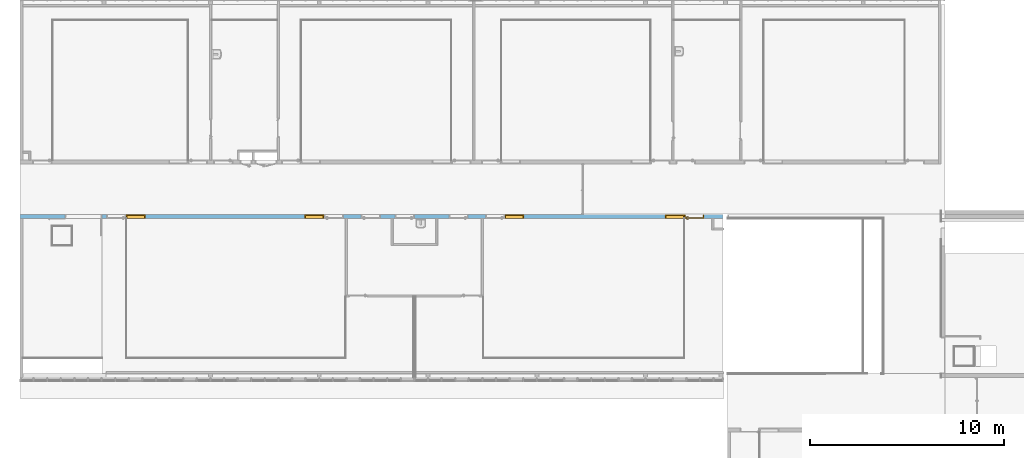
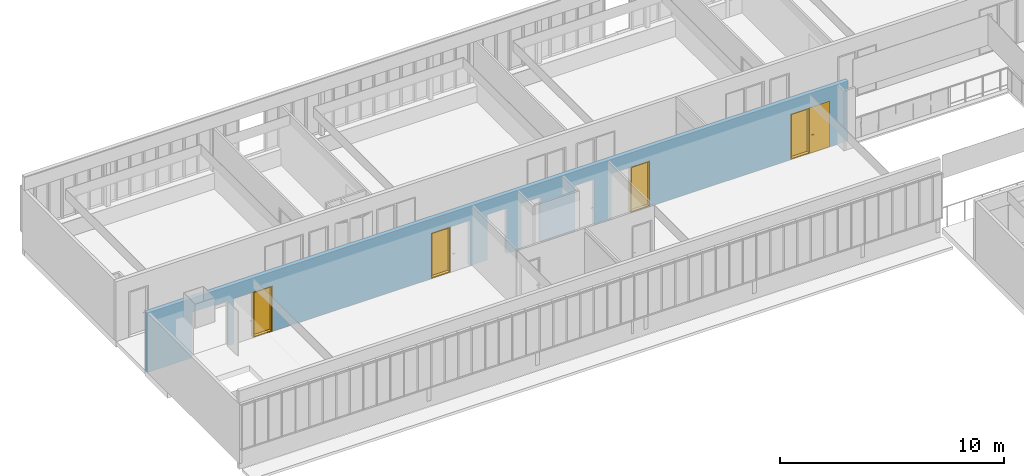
# One storey, part 35 of 87: 4 windows, 1 door, 12 openings, plus 1 element that does not belong to this part.
"""IFC2X3 building model written with IfcOpenShell, lengths in centimetres."""

from ifc_helpers import new_model, entity, si_unit, converted_unit, derived_unit, direction, frame, frame_2d, origin, place, context, subcontext, project, spatial, rectangle, extrude, faceted_brep, source, transform, mapped, material, material_list, layer, layer_set, layer_usage, type_object, type_shapes, element, fill, save


model = new_model("IFC2X3")

# Units and contexts
model_context = context("Model", 3, precision=0.001, world=origin(), true_north=direction((6.12303176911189e-17, 1.0)))
body_context = subcontext(model_context, "Body", "Model", "MODEL_VIEW")
ifc_project = project(units=[si_unit("LENGTHUNIT", "METRE", prefix="CENTI"), si_unit("AREAUNIT", "SQUARE_METRE"), si_unit("VOLUMEUNIT", "CUBIC_METRE"), converted_unit("PLANEANGLEUNIT", "DEGREE", entity("IfcRatioMeasure", 0.0174532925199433), si_unit("PLANEANGLEUNIT", "RADIAN"), dimensions=[0, 0, 0, 0, 0, 0, 0]), si_unit("MASSUNIT", "GRAM", prefix="KILO"), derived_unit("MASSDENSITYUNIT", [(si_unit("MASSUNIT", "GRAM", prefix="KILO"), 1), (si_unit("LENGTHUNIT", "METRE"), -3)]), si_unit("TIMEUNIT", "SECOND"), si_unit("FREQUENCYUNIT", "HERTZ"), si_unit("THERMODYNAMICTEMPERATUREUNIT", "DEGREE_CELSIUS"), derived_unit("THERMALTRANSMITTANCEUNIT", [(si_unit("MASSUNIT", "GRAM", prefix="KILO"), 1), (si_unit("THERMODYNAMICTEMPERATUREUNIT", "KELVIN"), -1), (si_unit("TIMEUNIT", "SECOND"), -3)]), derived_unit("VOLUMETRICFLOWRATEUNIT", [(si_unit("LENGTHUNIT", "METRE"), 3), (si_unit("TIMEUNIT", "SECOND"), -1)]), si_unit("ELECTRICCURRENTUNIT", "AMPERE"), si_unit("ELECTRICVOLTAGEUNIT", "VOLT"), si_unit("POWERUNIT", "WATT"), si_unit("FORCEUNIT", "NEWTON", prefix="KILO"), si_unit("ILLUMINANCEUNIT", "LUX"), si_unit("LUMINOUSFLUXUNIT", "LUMEN"), si_unit("LUMINOUSINTENSITYUNIT", "CANDELA"), derived_unit("USERDEFINED", [(si_unit("MASSUNIT", "GRAM", prefix="KILO"), -1), (si_unit("LENGTHUNIT", "METRE"), -2), (si_unit("TIMEUNIT", "SECOND"), 3), (si_unit("LUMINOUSFLUXUNIT", "LUMEN"), 1)]), derived_unit("LINEARVELOCITYUNIT", [(si_unit("LENGTHUNIT", "METRE"), 1), (si_unit("TIMEUNIT", "SECOND"), -1)]), si_unit("PRESSUREUNIT", "PASCAL"), derived_unit("USERDEFINED", [(si_unit("LENGTHUNIT", "METRE"), -2), (si_unit("MASSUNIT", "GRAM", prefix="KILO"), 1), (si_unit("TIMEUNIT", "SECOND"), -2)])], contexts=[model_context])

# Site, building, storey
site_placement = place(None, frame((-2781.94577612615, 7442.24238424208, 0.0)))
site = spatial("IfcSite", under=ifc_project, at=site_placement, Name="Default", CompositionType="ELEMENT")
building_placement = place(site_placement, origin())
building = spatial("IfcBuilding", under=site, at=building_placement, CompositionType="ELEMENT")
storey_placement = place(building_placement, frame((0.0, 0.0, 774.0)))
storey = spatial("IfcBuildingStorey", under=building, at=storey_placement, Name="TR - N02 - ARCH", CompositionType="ELEMENT", Elevation=774.0)

# Wall, openings, door, windows
ifc_material_1 = material(Name="01 - Maçonnerie")
ifc_layer = layer(ifc_material_1, 20.0)
ifc_layer_set = layer_set([ifc_layer], Name="Mur de base:04 - Structure - béton - 20cm")
ifc_layer_usage = layer_usage(ifc_layer_set, "AXIS2", "NEGATIVE", 10.0)
wall_type = type_object("IfcWallType", Name="Mur de base:04 - Structure - béton - 20cm", PredefinedType="STANDARD", material=ifc_layer_set)
wall_placement = place(storey_placement, frame((-4791.99987760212, -1100.0, 0.0), z_axis=(0.0, 0.0, 1.0), x_axis=(-1.0, 0.0, 0.0)))
wall = element("IfcWallStandardCase", 1, at=wall_placement, inside=storey, type_object=wall_type, material=ifc_layer_usage, Name="Mur de base:04 - Structure - béton - 20cm", ObjectType="Mur de base:04 - Structure - béton - 20cm", context=body_context, shape_type="SweptSolid", body=[
    extrude(rectangle(XDim=3617.50000006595, YDim=20.0000000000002, at=frame_2d((1808.75000003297, -3.99680288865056e-14), x_axis=(-1.0, 0.0))), origin(), (0.0, 0.0, 1.0), 326.0),
])
opening_1_placement = place(wall_placement, frame((3071.50016406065, -10.0, 0.0)))
element("IfcOpeningElement", 2, at=opening_1_placement, cuts=wall, Name="Int. Simple:PV (0.93m x 2.50m):1", ObjectType="Opening", context=body_context, shape_type="SweptSolid", body=[
    extrude(rectangle(XDim=248.500000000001, YDim=99.9999999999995, at=frame_2d((124.250000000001, 49.9999999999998), x_axis=(1.0, 0.0))), frame((0.0, 0.0, 0.0), z_axis=(0.0, 1.0, 0.0), x_axis=(0.0, 0.0, 1.0)), (0.0, 0.0, 1.0), 20.0),
])
opening_2_placement = place(wall_placement, frame((1952.5, -10.0, 0.0)))
element("IfcOpeningElement", 3, at=opening_2_placement, cuts=wall, Name="Int. Simple:PV (0.93m x 2.50m):1", ObjectType="Opening", context=body_context, shape_type="SweptSolid", body=[
    extrude(rectangle(XDim=248.500000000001, YDim=99.9999999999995, at=frame_2d((124.250000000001, 50.0), x_axis=(1.0, 0.0))), frame((0.0, 0.0, 0.0), z_axis=(0.0, 1.0, 0.0), x_axis=(0.0, 0.0, 1.0)), (0.0, 0.0, 1.0), 20.0),
])
opening_3_placement = place(wall_placement, frame((1762.50000000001, -10.0, 0.0)))
element("IfcOpeningElement", 4, at=opening_3_placement, cuts=wall, Name="Int. Simple:PP simple (0.93m x 2.50m):1", ObjectType="Opening", context=body_context, shape_type="SweptSolid", body=[
    extrude(rectangle(XDim=248.500000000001, YDim=99.9999999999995, at=frame_2d((124.250000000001, 50.0), x_axis=(1.0, 0.0))), frame((0.0, 0.0, 0.0), z_axis=(0.0, 1.0, 0.0), x_axis=(0.0, 0.0, 1.0)), (0.0, 0.0, 1.0), 20.0),
])
opening_4_placement = place(wall_placement, frame((1310.5, -10.0, 0.0)))
element("IfcOpeningElement", 5, at=opening_4_placement, cuts=wall, Name="Int. Simple:PP simple (0.93m x 2.50m):1", ObjectType="Opening", context=body_context, shape_type="SweptSolid", body=[
    extrude(rectangle(XDim=248.500000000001, YDim=99.9999999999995, at=frame_2d((124.250000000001, 49.9999999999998), x_axis=(1.0, 0.0))), frame((0.0, 0.0, 0.0), z_axis=(0.0, 1.0, 0.0), x_axis=(0.0, 0.0, 1.0)), (0.0, 0.0, 1.0), 20.0),
])
opening_5_placement = place(wall_placement, frame((1587.5, -10.0, 0.0)))
element("IfcOpeningElement", 6, at=opening_5_placement, cuts=wall, Name="Int. Simple:PP simple (0.93m x 2.50m):1", ObjectType="Opening", context=body_context, shape_type="SweptSolid", body=[
    extrude(rectangle(XDim=248.500000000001, YDim=99.9999999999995, at=frame_2d((124.250000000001, 49.9999999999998), x_axis=(1.0, 0.0))), frame((0.0, 0.0, 0.0), z_axis=(0.0, 1.0, 0.0), x_axis=(0.0, 0.0, 1.0)), (0.0, 0.0, 1.0), 20.0),
])
opening_6_placement = place(wall_placement, frame((1122.5, -10.0, 0.0)))
element("IfcOpeningElement", 7, at=opening_6_placement, cuts=wall, Name="Int. Simple:PV (0.93m x 2.50m):1", ObjectType="Opening", context=body_context, shape_type="SweptSolid", body=[
    extrude(rectangle(XDim=248.500000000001, YDim=99.9999999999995, at=frame_2d((124.250000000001, 49.9999999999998), x_axis=(1.0, 0.0))), frame((0.0, 0.0, 0.0), z_axis=(0.0, 1.0, 0.0), x_axis=(0.0, 0.0, 1.0)), (0.0, 0.0, 1.0), 20.0),
])
opening_7_placement = place(wall_placement, frame((97.5000000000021, -10.0, 0.0)))
opening_7 = element("IfcOpeningElement", 8, at=opening_7_placement, cuts=wall, Name="Int. Simple:PV (0.93m x 2.50m):1", ObjectType="Opening", context=body_context, shape_type="SweptSolid", body=[
    extrude(rectangle(XDim=248.500000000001, YDim=99.9999999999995, at=frame_2d((124.250000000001, 50.0), x_axis=(1.0, 0.0))), frame((0.0, 0.0, 0.0), z_axis=(0.0, 1.0, 0.0), x_axis=(0.0, 0.0, 1.0)), (0.0, 0.0, 1.0), 20.0),
])
opening_8_placement = place(wall_placement, frame((1022.5, -10.0, 0.0)))
opening_8 = element("IfcOpeningElement", 9, at=opening_8_placement, cuts=wall, Name="châssis intérieur vitré:châssis intérieur vitré (h=270) R+1:1", ObjectType="Opening", context=body_context, shape_type="SweptSolid", body=[
    extrude(rectangle(XDim=250.0, YDim=99.9999999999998, at=frame_2d((125.0, 49.9999999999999), x_axis=(1.0, 0.0))), frame((0.0, 0.0, 0.0), z_axis=(0.0, 1.0, 0.0), x_axis=(0.0, 0.0, 1.0)), (0.0, 0.0, 1.0), 20.0),
])
opening_9_placement = place(wall_placement, frame((197.500000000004, -10.0, 0.0)))
opening_9 = element("IfcOpeningElement", 10, at=opening_9_placement, cuts=wall, Name="châssis intérieur vitré:châssis intérieur vitré (h=270) R+1:1", ObjectType="Opening", context=body_context, shape_type="SweptSolid", body=[
    extrude(rectangle(XDim=250.0, YDim=99.9999999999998, at=frame_2d((125.0, 49.9999999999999), x_axis=(1.0, 0.0))), frame((0.0, 0.0, 0.0), z_axis=(0.0, 1.0, 0.0), x_axis=(0.0, 0.0, 1.0)), (0.0, 0.0, 1.0), 20.0),
])
opening_10_placement = place(wall_placement, frame((2052.5, -10.0, 0.0)))
opening_10 = element("IfcOpeningElement", 11, at=opening_10_placement, cuts=wall, Name="châssis intérieur vitré:châssis intérieur vitré (h=270) R+1:1", ObjectType="Opening", context=body_context, shape_type="SweptSolid", body=[
    extrude(rectangle(XDim=250.0, YDim=99.9999999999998, at=frame_2d((125.0, 49.9999999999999), x_axis=(1.0, 0.0))), frame((0.0, 0.0, 0.0), z_axis=(0.0, 1.0, 0.0), x_axis=(0.0, 0.0, 1.0)), (0.0, 0.0, 1.0), 20.0),
])
opening_11_placement = place(wall_placement, frame((2971.50016406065, -10.0, 0.0)))
opening_11 = element("IfcOpeningElement", 12, at=opening_11_placement, cuts=wall, Name="châssis intérieur vitré:châssis intérieur vitré (h=270) R+1:1", ObjectType="Opening", context=body_context, shape_type="SweptSolid", body=[
    extrude(rectangle(XDim=250.0, YDim=99.9999999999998, at=frame_2d((125.0, 49.9999999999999), x_axis=(1.0, 0.0))), frame((0.0, 0.0, 0.0), z_axis=(0.0, 1.0, 0.0), x_axis=(0.0, 0.0, 1.0)), (0.0, 0.0, 1.0), 20.0),
])
opening_12_placement = place(wall_placement, frame((3196.0, -10.0, 0.0)))
element("IfcOpeningElement", 13, at=opening_12_placement, cuts=wall, Name="Int. Double:PP (1.83m x 2.04m):1", ObjectType="Opening", context=body_context, shape_type="SweptSolid", body=[
    extrude(rectangle(XDim=248.500000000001, YDim=190.0, at=frame_2d((124.250000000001, 95.0000000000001), x_axis=(1.0, 0.0))), frame((0.0, 0.0, 0.0), z_axis=(0.0, 1.0, 0.0), x_axis=(0.0, 0.0, 1.0)), (0.0, 0.0, 1.0), 20.0),
])
ifc_material_2 = material(Name="Finition Peinture - Blanc satiné")
ifc_material_3 = material(Name="Bois - Panneau de porte")
ifc_material_4 = material(Name="Bois - Cadre de porte")
ifc_material_list_1 = material_list([ifc_material_2, ifc_material_3, ifc_material_4])
ifc_material_list_2 = material_list([ifc_material_2, ifc_material_3, ifc_material_4])
door_style = type_object("IfcDoorStyle", Name="PV (0.93m x 2.50m)", ConstructionType="NOTDEFINED", OperationType="SINGLE_SWING_LEFT", ParameterTakesPrecedence=False, Sizeable=False, material=ifc_material_list_2)
shared_shape_1 = source(origin(), body_context, "Body", "Brep", [
    faceted_brep([(10.5352761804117, -0.500000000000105, 86.6003983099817), (11.5000000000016, -0.500000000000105, 87.0), (11.5000000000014, -0.500000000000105, 108.0), (10.5352761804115, -0.500000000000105, 108.399601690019), (9.50000000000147, -0.500000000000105, 108.535898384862), (8.46472381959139, -0.500000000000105, 108.399601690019), (7.50000000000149, -0.500000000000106, 108.0), (7.50000000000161, -0.500000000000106, 87.0), (8.46472381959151, -0.500000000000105, 86.6003983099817), (9.50000000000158, -0.500000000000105, 86.464101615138), (10.5352761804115, 0.0, 108.399601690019), (11.5000000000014, 0.0, 108.0), (11.5000000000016, 0.0, 87.0), (10.5352761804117, 0.0, 86.6003983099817), (9.50000000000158, 0.0, 86.464101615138), (8.46472381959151, 0.0, 86.6003983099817), (7.50000000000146, 0.0, 87.0), (7.50000000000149, 0.0, 108.0), (8.46472381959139, 0.0, 108.399601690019), (9.50000000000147, 0.0, 108.535898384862)], [[[0, 1, 2, 3, 4, 5, 6, 7, 8, 9]], [[10, 11, 12, 13, 14, 15, 16, 17, 18, 19]], [[16, 15, 8, 7]], [[8, 15, 14, 9]], [[14, 13, 0, 9]], [[13, 12, 1, 0]], [[2, 1, 12, 11]], [[11, 10, 3, 2]], [[3, 10, 19, 4]], [[19, 18, 5, 4]], [[18, 17, 6, 5]], [[7, 6, 17, 16]]]),
    faceted_brep([(10.5352761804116, 4.0, 86.6003983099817), (11.5000000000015, 4.0, 87.0), (11.5000000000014, 4.0, 108.0), (10.5352761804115, 4.0, 108.399601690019), (9.50000000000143, 4.0, 108.535898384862), (8.46472381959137, 4.0, 108.399601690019), (7.50000000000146, 4.0, 108.0), (7.50000000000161, 4.0, 87.0), (8.46472381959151, 4.0, 86.6003983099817), (9.50000000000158, 4.0, 86.464101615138), (10.5352761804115, 4.49999999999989, 108.399601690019), (11.5000000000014, 4.49999999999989, 108.0), (11.5000000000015, 4.49999999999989, 87.0), (10.5352761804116, 4.49999999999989, 86.6003983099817), (9.50000000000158, 4.49999999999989, 86.464101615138), (8.46472381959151, 4.49999999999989, 86.6003983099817), (7.50000000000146, 4.49999999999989, 87.0), (7.50000000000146, 4.49999999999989, 108.0), (8.46472381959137, 4.49999999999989, 108.399601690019), (9.50000000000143, 4.49999999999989, 108.535898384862)], [[[0, 1, 2, 3, 4, 5, 6, 7, 8, 9]], [[10, 11, 12, 13, 14, 15, 16, 17, 18, 19]], [[11, 10, 3, 2]], [[3, 10, 19, 4]], [[19, 18, 5, 4]], [[18, 17, 6, 5]], [[7, 6, 17, 16]], [[16, 15, 8, 7]], [[8, 15, 14, 9]], [[14, 13, 0, 9]], [[13, 12, 1, 0]], [[2, 1, 12, 11]]]),
    faceted_brep([(9.29747013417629, -0.500000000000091, 100.778044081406), (9.70252986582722, -0.500000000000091, 100.778044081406), (10.1000000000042, -0.500000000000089, 100.699999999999), (10.1000000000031, -0.500000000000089, 99.3000000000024), (9.7025298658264, -0.500000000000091, 99.2219559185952), (9.29747013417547, -0.500000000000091, 99.221955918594), (8.8999999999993, -0.500000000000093, 99.2999999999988), (8.89999999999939, -0.500000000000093, 100.7), (8.89999999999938, -3.26509507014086, 100.7), (9.29747013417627, -3.10045754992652, 100.778044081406), (10.9023585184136, -4.70534593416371, 100.778044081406), (11.0701397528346, -4.30028620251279, 100.778044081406), (9.7025298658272, -2.93267631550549, 100.778044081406), (10.1000000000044, -2.76803879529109, 100.7), (10.1000000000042, -2.76803879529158, 99.3000000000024), (9.7025298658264, -2.93267631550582, 99.2219559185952), (11.0701397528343, -4.30028620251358, 99.2219559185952), (10.9023585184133, -4.70534593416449, 99.221955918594), (9.29747013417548, -3.10045754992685, 99.221955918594), (8.89999999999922, -3.26509507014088, 99.2999999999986), (10.7377209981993, -5.10281606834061, 100.7), (11.2347772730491, -3.90281606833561, 100.7), (11.2347772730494, -3.90281606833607, 99.3000000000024), (10.7377209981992, -5.10281606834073, 99.2999999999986), (19.5018640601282, -5.1028160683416, 99.2999999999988), (19.5018640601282, -4.70534593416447, 99.221955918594), (19.5018640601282, -4.30028620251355, 99.2219559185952), (19.5018640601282, -3.90281606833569, 99.3000000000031), (19.5018640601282, -3.90281606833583, 100.7), (19.5018640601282, -4.30028620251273, 100.778044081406), (19.5018640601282, -4.70534593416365, 100.778044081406), (19.5018640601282, -5.10281606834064, 100.699999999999), (14.7307697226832, -5.10281606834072, 100.7), (15.2860019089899, -4.5028160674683, 100.78786867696), (15.3683206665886, -3.9028160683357, 100.7), (15.3683206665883, -3.90281606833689, 99.3000000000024), (15.2860018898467, -4.50281607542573, 99.2121313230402), (14.7307700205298, -5.10281606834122, 99.2999999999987)], [[[0, 1, 2, 3, 4, 5, 6, 7]], [[8, 9, 0, 7]], [[9, 10, 11, 12, 1, 0]], [[12, 13, 2, 1]], [[3, 2, 13, 14]], [[14, 15, 4, 3]], [[15, 16, 17, 18, 5, 4]], [[18, 19, 6, 5]], [[7, 6, 19, 8]], [[20, 10, 9, 8]], [[11, 21, 13, 12]], [[14, 13, 21, 22]], [[22, 16, 15, 14]], [[17, 23, 19, 18]], [[8, 19, 23, 20]], [[24, 25, 26, 27, 28, 29, 30, 31]], [[32, 30, 33]], [[31, 30, 32]], [[10, 20, 32]], [[33, 34, 11]], [[21, 11, 34]], [[34, 29, 28]], [[30, 29, 33]], [[29, 34, 33]], [[10, 32, 33]], [[10, 33, 11]], [[22, 21, 34, 28, 27, 35]], [[35, 26, 36]], [[37, 36, 25]], [[22, 35, 16]], [[35, 27, 26]], [[24, 37, 25]], [[23, 17, 37]], [[37, 17, 36]], [[17, 16, 36]], [[16, 35, 36]], [[25, 36, 26]], [[20, 23, 37, 24, 31, 32]]]),
    faceted_brep([(9.29747013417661, 4.49999999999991, 100.778044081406), (8.89999999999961, 4.4999999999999, 100.7), (8.89999999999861, 4.4999999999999, 99.2999999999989), (9.29747013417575, 4.49999999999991, 99.221955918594), (9.70252986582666, 4.49999999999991, 99.2219559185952), (10.1000000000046, 4.49999999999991, 99.3000000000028), (10.1000000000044, 4.49999999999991, 100.7), (9.70252986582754, 4.49999999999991, 100.778044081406), (10.1000000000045, 6.7485204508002, 99.3000000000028), (10.1000000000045, 6.74852045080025, 100.7), (9.70252986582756, 6.91315797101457, 100.778044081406), (11.083890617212, 8.29451872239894, 100.778044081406), (10.916109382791, 8.69957845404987, 100.778044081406), (9.29747013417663, 7.0809392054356, 100.778044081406), (8.89999999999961, 7.24557672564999, 100.7), (8.89999999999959, 7.2455767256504, 99.2999999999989), (9.29747013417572, 7.08093920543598, 99.221955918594), (10.9161093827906, 8.69957845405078, 99.221955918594), (11.0838906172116, 8.29451872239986, 99.2219559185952), (9.70252986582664, 6.91315797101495, 99.2219559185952), (11.2485281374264, 7.89704858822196, 99.3000000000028), (11.2485281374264, 7.89704858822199, 100.7), (10.7514718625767, 9.09704858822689, 100.7), (10.7514718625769, 9.0970485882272, 99.2999999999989), (19.5045783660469, 7.89704858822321, 99.3000000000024), (19.5045783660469, 8.29451872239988, 99.2219559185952), (19.5045783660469, 8.6995784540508, 99.221955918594), (19.5045783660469, 9.09704858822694, 99.2999999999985), (19.5045783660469, 9.09704858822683, 100.7), (19.5045783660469, 8.69957845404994, 100.778044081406), (19.5045783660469, 8.29451872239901, 100.778044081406), (19.5045783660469, 7.89704858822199, 100.7), (15.3765520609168, 7.89704858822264, 99.3000000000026), (15.3765532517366, 7.89704858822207, 100.7), (15.294234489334, 8.49704858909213, 100.78786867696), (14.7445205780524, 9.09704858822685, 100.7), (14.7445204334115, 9.09704858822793, 99.2999999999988), (15.2942345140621, 8.49704858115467, 99.2121313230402)], [[[0, 1, 2, 3, 4, 5, 6, 7]], [[6, 5, 8, 9]], [[9, 10, 7, 6]], [[10, 11, 12, 13, 0, 7]], [[13, 14, 1, 0]], [[2, 1, 14, 15]], [[15, 16, 3, 2]], [[16, 17, 18, 19, 4, 3]], [[19, 8, 5, 4]], [[9, 8, 20, 21]], [[21, 11, 10, 9]], [[12, 22, 14, 13]], [[15, 14, 22, 23]], [[23, 17, 16, 15]], [[18, 20, 8, 19]], [[24, 25, 26, 27, 28, 29, 30, 31]], [[21, 20, 32, 24, 31, 33]], [[33, 30, 34]], [[35, 34, 29]], [[21, 33, 11]], [[33, 31, 30]], [[28, 35, 29]], [[22, 12, 35]], [[35, 12, 34]], [[12, 11, 34]], [[11, 33, 34]], [[29, 34, 30]], [[22, 35, 28, 27, 36, 23]], [[36, 26, 37]], [[27, 26, 36]], [[17, 23, 36]], [[37, 32, 18]], [[20, 18, 32]], [[32, 25, 24]], [[26, 25, 37]], [[25, 32, 37]], [[17, 36, 37]], [[17, 37, 18]]]),
    faceted_brep([(3.50000000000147, 4.0, 245.0), (96.5000000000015, 4.0, 245.0), (96.5000000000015, 4.0, 0.0), (3.50000000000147, 4.0, 0.0), (3.50000000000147, 0.0, 245.0), (3.50000000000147, 0.0, 0.0), (96.5000000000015, 0.0, 0.0), (96.5000000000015, 0.0, 245.0)], [[[0, 1, 2, 3]], [[4, 5, 6, 7]], [[1, 0, 4, 7]], [[2, 1, 7, 6]], [[3, 2, 6, 5]], [[0, 3, 5, 4]]]),
    faceted_brep([(0.0, 20.0, 0.0), (-1.50000000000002, 20.0, 0.0), (-1.50000000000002, 20.5000000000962, 0.0), (5.0, 20.5000000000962, 0.0), (5.0, 4.0, 0.0), (3.50000000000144, 4.0, 0.0), (3.50000000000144, -0.500000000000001, 0.0), (-1.50000000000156, -0.500000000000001, 0.0), (-1.50000000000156, 0.0, 0.0), (0.0, 0.0, 0.0), (0.0, 20.0, 248.500000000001), (100.0, 20.0, 248.500000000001), (100.0, 20.0, 0.0), (101.5, 20.0, 0.0), (101.5, 20.0, 250.0), (-1.50000000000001, 20.0, 250.0), (-1.50000000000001, 20.5000000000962, 250.0), (101.5, 20.5000000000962, 250.0), (101.5, 20.5000000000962, 0.0), (95.0, 20.5000000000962, 0.0), (95.0, 20.5000000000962, 243.5), (5.0, 20.5000000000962, 243.5), (5.0, 4.0, 243.5), (95.0, 4.0, 243.5), (95.0, 4.0, 0.0), (96.499999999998, 4.0, 0.0), (96.499999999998, 4.0, 245.0), (3.50000000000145, 4.0, 245.0), (3.50000000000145, -0.500000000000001, 245.0), (96.499999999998, -0.500000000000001, 245.0), (96.499999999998, -0.500000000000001, 0.0), (101.500000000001, -0.500000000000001, 0.0), (101.500000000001, -0.500000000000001, 250.0), (-1.50000000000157, -0.500000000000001, 250.0), (-1.50000000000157, 0.0, 250.0), (101.500000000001, 0.0, 250.0), (101.500000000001, 0.0, 0.0), (100.0, 0.0, 0.0), (100.0, 0.0, 248.500000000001), (0.0, 0.0, 248.500000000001)], [[[0, 1, 2, 3, 4, 5, 6, 7, 8, 9]], [[1, 0, 10, 11, 12, 13, 14, 15]], [[2, 1, 15, 16]], [[3, 2, 16, 17, 18, 19, 20, 21]], [[3, 21, 22, 4]], [[5, 4, 22, 23, 24, 25, 26, 27]], [[5, 27, 28, 6]], [[7, 6, 28, 29, 30, 31, 32, 33]], [[8, 7, 33, 34]], [[9, 8, 34, 35, 36, 37, 38, 39]], [[0, 9, 39, 10]], [[11, 38, 37, 12]], [[12, 37, 36, 31, 30, 25, 24, 19, 18, 13]], [[17, 14, 13, 18]], [[23, 20, 19, 24]], [[29, 26, 25, 30]], [[35, 32, 31, 36]], [[16, 15, 14, 17]], [[22, 21, 20, 23]], [[28, 27, 26, 29]], [[34, 33, 32, 35]], [[10, 39, 38, 11]]]),
])
type_shapes(door_style, [shared_shape_1])
door_placement = place(opening_7_placement, frame((100.0, 20.0, 0.0), z_axis=(0.0, 0.0, 1.0), x_axis=(-1.0, 0.0, 0.0)))
door = element("IfcDoor", 14, at=door_placement, inside=storey, type_object=door_style, material=ifc_material_list_1, Name="Int. Simple:PV (0.93m x 2.50m)", ObjectType="Int. Simple:PV (0.93m x 2.50m)", OverallHeight=248.500000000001, OverallWidth=99.9999999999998, context=body_context, shape_type="MappedRepresentation", body=[
    mapped(shared_shape_1, transform((0.0, 0.0, 0.0), scale=1.0)),
])
fill(opening_7, door)
ifc_material_5 = material(Name="Verre")
ifc_material_6 = material(Name="huisserie bois")
ifc_material_list_3 = material_list([ifc_material_5, ifc_material_6])
ifc_material_list_4 = material_list([ifc_material_5, ifc_material_6])
window_style_1 = type_object("IfcWindowStyle", Name="châssis intérieur vitré (h=270) R+1", ConstructionType="NOTDEFINED", OperationType="NOTDEFINED", ParameterTakesPrecedence=False, Sizeable=False, material=ifc_material_list_4)
shared_shape_2 = source(origin(), body_context, "Body", "Brep", [
    faceted_brep([(97.0, 5.0, 247.0), (97.0, 5.0, 3.0), (3.0, 5.0, 3.0), (3.0, 5.0, 247.0), (97.0, 2.0, 247.0), (97.0, 2.0, 3.0), (3.0, 2.0, 3.0), (3.0, 2.0, 247.0)], [[[0, 1, 2, 3]], [[1, 0, 4, 5]], [[2, 1, 5, 6]], [[3, 2, 6, 7]], [[4, 7, 6, 5]], [[0, 3, 7, 4]]]),
    faceted_brep([(97.0, 2.0, 247.0), (97.0, 0.0, 247.0), (97.0, 0.0, 3.0), (97.0, 2.0, 3.0), (95.0, 0.0, 5.0), (5.0, 0.0, 5.0), (5.0, 0.0, 245.0), (95.0, 0.0, 245.0), (3.0, 0.0, 247.0), (3.0, 0.0, 3.0), (3.0, 2.0, 3.0), (3.0, 2.0, 247.0), (95.0, 2.0, 245.0), (5.0, 2.0, 245.0), (5.0, 2.0, 5.0), (95.0, 2.0, 5.0)], [[[0, 1, 2, 3]], [[4, 5, 6, 7], [1, 8, 9, 2]], [[3, 2, 9, 10]], [[3, 10, 11, 0], [12, 13, 14, 15]], [[7, 12, 15, 4]], [[4, 15, 14, 5]], [[10, 9, 8, 11]], [[5, 14, 13, 6]], [[11, 8, 1, 0]], [[6, 13, 12, 7]]], outer=[[True], [False, True], [True], [True, False], [True], [True], [True], [True], [True], [True]]),
    faceted_brep([(95.0, 5.0, 245.0), (95.0, 20.0, 245.0), (95.0, 20.0, 5.0), (95.0, 5.0, 5.0), (100.0, 20.0, 0.0), (0.0, 20.0, 0.0), (0.0, 20.0, 250.0), (100.0, 20.0, 250.0), (5.0, 20.0, 245.0), (5.0, 20.0, 5.0), (5.0, 5.0, 5.0), (5.0, 5.0, 245.0), (97.0, 5.0, 247.0), (3.0, 5.0, 247.0), (3.0, 5.0, 3.0), (97.0, 5.0, 3.0), (97.0, 0.0, 247.0), (97.0, 0.0, 3.0), (3.0, 0.0, 3.0), (3.0, 0.0, 247.0), (100.0, 0.0, 250.0), (0.0, 0.0, 250.0), (0.0, 0.0, 0.0), (100.0, 0.0, 0.0)], [[[0, 1, 2, 3]], [[4, 5, 6, 7], [1, 8, 9, 2]], [[3, 2, 9, 10]], [[3, 10, 11, 0], [12, 13, 14, 15]], [[16, 12, 15, 17]], [[17, 15, 14, 18]], [[17, 18, 19, 16], [20, 21, 22, 23]], [[7, 20, 23, 4]], [[4, 23, 22, 5]], [[10, 9, 8, 11]], [[18, 14, 13, 19]], [[5, 22, 21, 6]], [[11, 8, 1, 0]], [[19, 13, 12, 16]], [[6, 21, 20, 7]]], outer=[[True], [True, False], [True], [False, True], [True], [True], [False, True], [True], [True], [True], [True], [True], [True], [True], [True]]),
])
type_shapes(window_style_1, [shared_shape_2])
window_1_placement = place(opening_8_placement, origin())
window_1 = element("IfcWindow", 15, at=window_1_placement, inside=storey, type_object=window_style_1, material=ifc_material_list_3, Name="châssis intérieur vitré:châssis intérieur vitré (h=270) R+1", ObjectType="châssis intérieur vitré:châssis intérieur vitré (h=270) R+1", OverallHeight=250.0, OverallWidth=99.9999999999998, context=body_context, shape_type="MappedRepresentation", body=[
    mapped(shared_shape_2, transform((0.0, 0.0, 0.0), scale=1.0)),
])
fill(opening_8, window_1)
ifc_material_list_5 = material_list([ifc_material_5, ifc_material_6])
window_2_placement = place(opening_9_placement, origin())
window_2 = element("IfcWindow", 16, at=window_2_placement, inside=storey, type_object=window_style_1, material=ifc_material_list_5, Name="châssis intérieur vitré:châssis intérieur vitré (h=270) R+1", ObjectType="châssis intérieur vitré:châssis intérieur vitré (h=270) R+1", OverallHeight=250.0, OverallWidth=99.9999999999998, context=body_context, shape_type="MappedRepresentation", body=[
    mapped(shared_shape_2, transform((0.0, 0.0, 0.0), scale=1.0)),
])
fill(opening_9, window_2)
ifc_material_list_6 = material_list([ifc_material_5, ifc_material_6])
window_3_placement = place(opening_10_placement, origin())
window_3 = element("IfcWindow", 17, at=window_3_placement, inside=storey, type_object=window_style_1, material=ifc_material_list_6, Name="châssis intérieur vitré:châssis intérieur vitré (h=270) R+1", ObjectType="châssis intérieur vitré:châssis intérieur vitré (h=270) R+1", OverallHeight=250.0, OverallWidth=99.9999999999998, context=body_context, shape_type="MappedRepresentation", body=[
    mapped(shared_shape_2, transform((0.0, 0.0, 0.0), scale=1.0)),
])
fill(opening_10, window_3)
ifc_material_list_7 = material_list([ifc_material_5, ifc_material_6])
ifc_material_list_8 = material_list([ifc_material_5, ifc_material_6])
window_style_2 = type_object("IfcWindowStyle", Name="châssis intérieur vitré (h=270) R+1", ConstructionType="NOTDEFINED", OperationType="NOTDEFINED", ParameterTakesPrecedence=False, Sizeable=False, material=ifc_material_list_8)
shared_shape_3 = source(origin(), body_context, "Body", "Brep", [
    faceted_brep([(3.0, 5.0, 247.0), (97.0, 5.0, 247.0), (97.0, 5.0, 3.0), (3.0, 5.0, 3.0), (3.0, 2.0, 3.0), (3.0, 2.0, 247.0), (97.0, 2.0, 3.0), (97.0, 2.0, 247.0)], [[[0, 1, 2, 3]], [[3, 4, 5, 0]], [[2, 6, 4, 3]], [[1, 7, 6, 2]], [[5, 4, 6, 7]], [[0, 5, 7, 1]]]),
    faceted_brep([(3.0, 2.0, 247.0), (3.0, 2.0, 3.0), (3.0, 0.0, 3.0), (3.0, 0.0, 247.0), (97.0, 0.0, 3.0), (97.0, 0.0, 247.0), (5.0, 0.0, 5.0), (5.0, 0.0, 245.0), (95.0, 0.0, 245.0), (95.0, 0.0, 5.0), (97.0, 2.0, 3.0), (97.0, 2.0, 247.0), (5.0, 2.0, 245.0), (5.0, 2.0, 5.0), (95.0, 2.0, 5.0), (95.0, 2.0, 245.0)], [[[0, 1, 2, 3]], [[3, 2, 4, 5], [6, 7, 8, 9]], [[1, 10, 4, 2]], [[1, 0, 11, 10], [12, 13, 14, 15]], [[7, 6, 13, 12]], [[6, 9, 14, 13]], [[10, 11, 5, 4]], [[9, 8, 15, 14]], [[11, 0, 3, 5]], [[8, 7, 12, 15]]]),
    faceted_brep([(5.0, 5.0, 245.0), (5.0, 5.0, 5.0), (5.0, 20.0, 5.0), (5.0, 20.0, 245.0), (95.0, 20.0, 5.0), (95.0, 20.0, 245.0), (0.0, 20.0, 0.0), (0.0, 20.0, 250.0), (100.0, 20.0, 250.0), (100.0, 20.0, 0.0), (95.0, 5.0, 5.0), (95.0, 5.0, 245.0), (3.0, 5.0, 247.0), (3.0, 5.0, 3.0), (97.0, 5.0, 3.0), (97.0, 5.0, 247.0), (3.0, 0.0, 247.0), (3.0, 0.0, 3.0), (97.0, 0.0, 3.0), (97.0, 0.0, 247.0), (0.0, 0.0, 250.0), (0.0, 0.0, 0.0), (100.0, 0.0, 0.0), (100.0, 0.0, 250.0)], [[[0, 1, 2, 3]], [[3, 2, 4, 5], [6, 7, 8, 9]], [[1, 10, 4, 2]], [[1, 0, 11, 10], [12, 13, 14, 15]], [[16, 17, 13, 12]], [[17, 18, 14, 13]], [[17, 16, 19, 18], [20, 21, 22, 23]], [[7, 6, 21, 20]], [[6, 9, 22, 21]], [[10, 11, 5, 4]], [[18, 19, 15, 14]], [[9, 8, 23, 22]], [[11, 0, 3, 5]], [[19, 16, 12, 15]], [[8, 7, 20, 23]]], outer=[[True], [False, True], [True], [False, True], [True], [True], [False, True], [True], [True], [True], [True], [True], [True], [True], [True]]),
])
type_shapes(window_style_2, [shared_shape_3])
window_4_placement = place(opening_11_placement, origin())
window_4 = element("IfcWindow", 18, at=window_4_placement, inside=storey, type_object=window_style_2, material=ifc_material_list_7, Name="châssis intérieur vitré:châssis intérieur vitré (h=270) R+1", ObjectType="châssis intérieur vitré:châssis intérieur vitré (h=270) R+1", OverallHeight=250.0, OverallWidth=99.9999999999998, context=body_context, shape_type="MappedRepresentation", body=[
    mapped(shared_shape_3, transform((0.0, 0.0, 0.0), scale=1.0)),
])
fill(opening_11, window_4)

save(model, "model.ifc")
